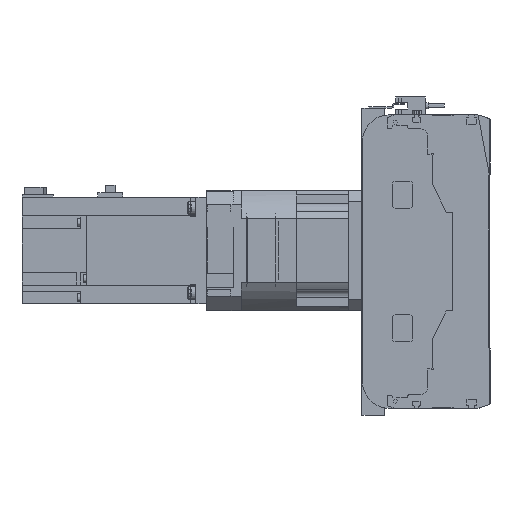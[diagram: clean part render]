
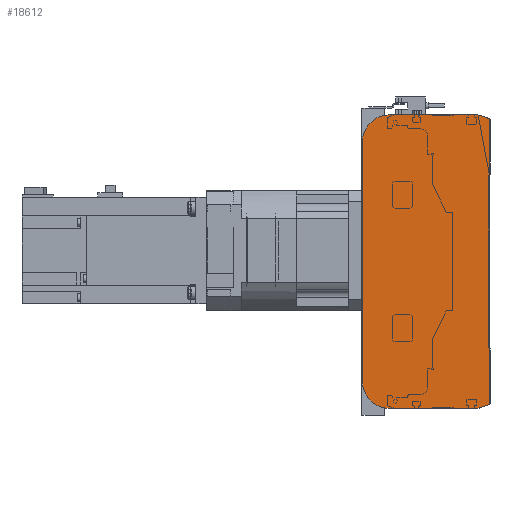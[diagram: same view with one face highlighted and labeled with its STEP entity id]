
A CAD part, left-side view. The second image highlights one B-rep face of the part: STEP entity #18612.
In plain terms, the highlighted planar face has unit normal (-1, 0, 0).
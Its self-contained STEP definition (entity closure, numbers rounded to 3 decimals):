
#1062=CIRCLE('',#20284,20.);
#1063=CIRCLE('',#20287,20.);
#4638=ORIENTED_EDGE('',*,*,#8072,.F.);
#4639=ORIENTED_EDGE('',*,*,#8114,.F.);
#4640=ORIENTED_EDGE('',*,*,#8112,.F.);
#4641=ORIENTED_EDGE('',*,*,#8110,.F.);
#4642=ORIENTED_EDGE('',*,*,#8099,.F.);
#4643=ORIENTED_EDGE('',*,*,#8090,.F.);
#4644=ORIENTED_EDGE('',*,*,#8086,.F.);
#4645=ORIENTED_EDGE('',*,*,#8083,.F.);
#8072=EDGE_CURVE('',#10133,#10134,#11803,.T.);
#8083=EDGE_CURVE('',#10134,#10141,#11814,.T.);
#8086=EDGE_CURVE('',#10141,#10143,#11817,.T.);
#8090=EDGE_CURVE('',#10143,#10144,#11821,.T.);
#8099=EDGE_CURVE('',#10144,#10150,#11830,.T.);
#8110=EDGE_CURVE('',#10150,#10157,#1062,.T.);
#8112=EDGE_CURVE('',#10157,#10158,#11842,.T.);
#8114=EDGE_CURVE('',#10158,#10133,#1063,.T.);
#10133=VERTEX_POINT('',#30758);
#10134=VERTEX_POINT('',#30760);
#10141=VERTEX_POINT('',#30779);
#10143=VERTEX_POINT('',#30785);
#10144=VERTEX_POINT('',#30791);
#10150=VERTEX_POINT('',#30807);
#10157=VERTEX_POINT('',#30826);
#10158=VERTEX_POINT('',#30830);
#11803=LINE('',#30759,#13384);
#11814=LINE('',#30778,#13395);
#11817=LINE('',#30784,#13398);
#11821=LINE('',#30790,#13402);
#11830=LINE('',#30806,#13411);
#11842=LINE('',#30829,#13423);
#13384=VECTOR('',#24571,1000.);
#13395=VECTOR('',#24584,1000.);
#13398=VECTOR('',#24589,1000.);
#13402=VECTOR('',#24595,1000.);
#13411=VECTOR('',#24606,1000.);
#13423=VECTOR('',#24624,1000.);
#14808=EDGE_LOOP('',(#4638,#4639,#4640,#4641,#4642,#4643,#4644,#4645));
#16542=FACE_BOUND('',#14808,.T.);
#17715=PLANE('',#20288);
#18612=ADVANCED_FACE('',(#16542),#17715,.F.);
#20284=AXIS2_PLACEMENT_3D('',#30825,#24619,#24620);
#20287=AXIS2_PLACEMENT_3D('',#30833,#24628,#24629);
#20288=AXIS2_PLACEMENT_3D('',#30834,#24630,#24631);
#24571=DIRECTION('',(0.,-1.,0.));
#24584=DIRECTION('',(0.,-0.945,-0.328));
#24589=DIRECTION('',(0.,0.,-1.));
#24595=DIRECTION('',(0.,0.945,-0.328));
#24606=DIRECTION('',(0.,1.,0.));
#24619=DIRECTION('',(1.,0.,0.));
#24620=DIRECTION('',(0.,0.,-1.));
#24624=DIRECTION('',(0.,0.,1.));
#24628=DIRECTION('',(1.,0.,0.));
#24629=DIRECTION('',(0.,0.,-1.));
#24630=DIRECTION('',(1.,0.,0.));
#24631=DIRECTION('',(0.,0.,-1.));
#30758=CARTESIAN_POINT('',(0.,75.5,110.));
#30759=CARTESIAN_POINT('',(0.,75.5,110.));
#30760=CARTESIAN_POINT('',(0.,9.,110.));
#30778=CARTESIAN_POINT('',(0.,9.,110.));
#30779=CARTESIAN_POINT('',(0.,0.5,107.05));
#30784=CARTESIAN_POINT('',(0.,0.5,107.05));
#30785=CARTESIAN_POINT('',(0.,0.5,-107.05));
#30790=CARTESIAN_POINT('',(0.,0.5,-107.05));
#30791=CARTESIAN_POINT('',(0.,9.,-110.));
#30806=CARTESIAN_POINT('',(0.,9.,-110.));
#30807=CARTESIAN_POINT('',(0.,75.5,-110.));
#30825=CARTESIAN_POINT('',(0.,75.5,-90.));
#30826=CARTESIAN_POINT('',(0.,95.5,-90.));
#30829=CARTESIAN_POINT('',(0.,95.5,-90.));
#30830=CARTESIAN_POINT('',(0.,95.5,90.));
#30833=CARTESIAN_POINT('',(0.,75.5,90.));
#30834=CARTESIAN_POINT('',(0.,75.5,-90.));
